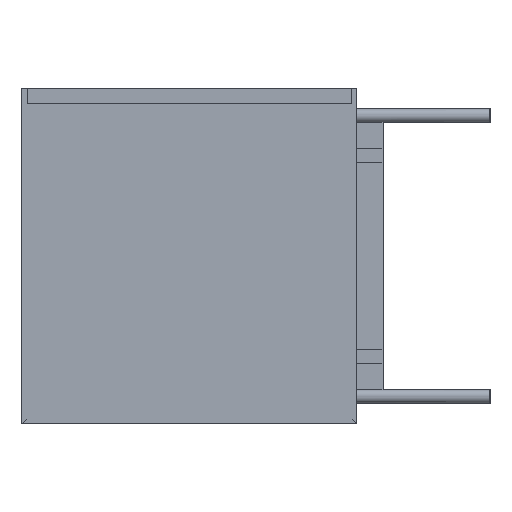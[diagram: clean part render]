
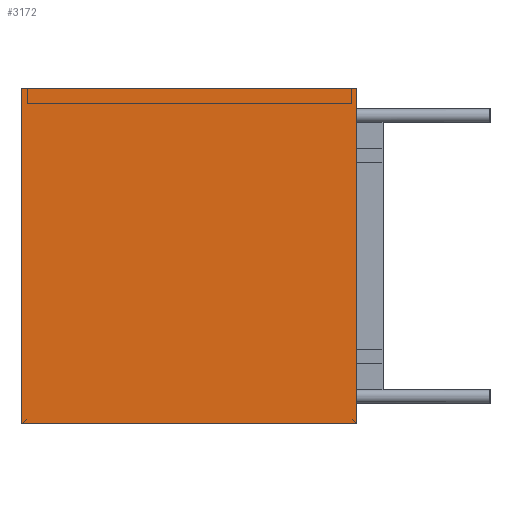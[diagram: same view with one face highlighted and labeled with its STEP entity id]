
A CAD part, left-side view. The second image highlights one B-rep face of the part: STEP entity #3172.
In plain terms, the highlighted planar face has unit normal (-1, 0, 0).
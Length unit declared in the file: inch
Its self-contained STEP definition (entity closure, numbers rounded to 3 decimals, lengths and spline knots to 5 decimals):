
#594=FACE_OUTER_BOUND('',#756,.T.);
#756=EDGE_LOOP('',(#2273,#2274,#2275,#2276));
#923=LINE('',#4532,#1261);
#927=LINE('',#4539,#1265);
#930=LINE('',#4545,#1268);
#932=LINE('',#4549,#1270);
#1261=VECTOR('',#3709,0.3937);
#1265=VECTOR('',#3715,0.3937);
#1268=VECTOR('',#3720,0.3937);
#1270=VECTOR('',#3726,0.3937);
#1597=VERTEX_POINT('',#4529);
#1598=VERTEX_POINT('',#4531);
#1600=VERTEX_POINT('',#4537);
#1601=VERTEX_POINT('',#4541);
#1859=EDGE_CURVE('',#1598,#1597,#923,.T.);
#1863=EDGE_CURVE('',#1600,#1597,#927,.T.);
#1866=EDGE_CURVE('',#1601,#1598,#930,.T.);
#1868=EDGE_CURVE('',#1601,#1600,#932,.T.);
#2273=ORIENTED_EDGE('',*,*,#1866,.T.);
#2274=ORIENTED_EDGE('',*,*,#1859,.T.);
#2275=ORIENTED_EDGE('',*,*,#1863,.F.);
#2276=ORIENTED_EDGE('',*,*,#1868,.F.);
#3028=PLANE('',#3459);
#3172=ADVANCED_FACE('',(#594),#3028,.T.);
#3459=AXIS2_PLACEMENT_3D('',#4550,#3727,#3728);
#3709=DIRECTION('',(0.,0.,1.));
#3715=DIRECTION('',(0.,-1.,0.));
#3720=DIRECTION('',(0.,-1.,0.));
#3726=DIRECTION('',(0.,0.,1.));
#3727=DIRECTION('center_axis',(-1.,0.,0.));
#3728=DIRECTION('ref_axis',(0.,-1.,0.));
#4529=CARTESIAN_POINT('',(0.,0.,25.));
#4531=CARTESIAN_POINT('',(0.,0.,0.));
#4532=CARTESIAN_POINT('',(0.,0.,0.));
#4537=CARTESIAN_POINT('',(0.,25.,25.));
#4539=CARTESIAN_POINT('',(0.,25.,25.));
#4541=CARTESIAN_POINT('',(0.,25.,0.));
#4545=CARTESIAN_POINT('',(0.,25.,0.));
#4549=CARTESIAN_POINT('',(0.,25.,0.));
#4550=CARTESIAN_POINT('Origin',(0.,25.,0.));
